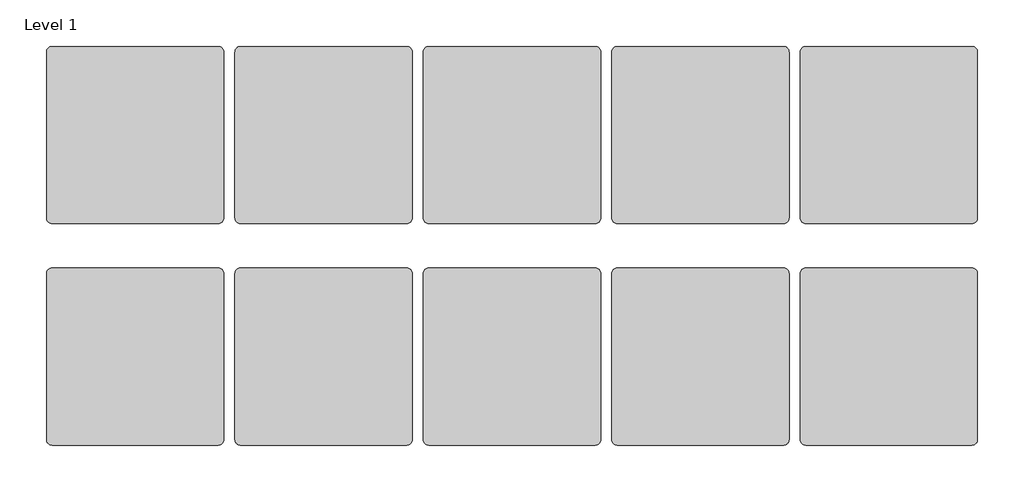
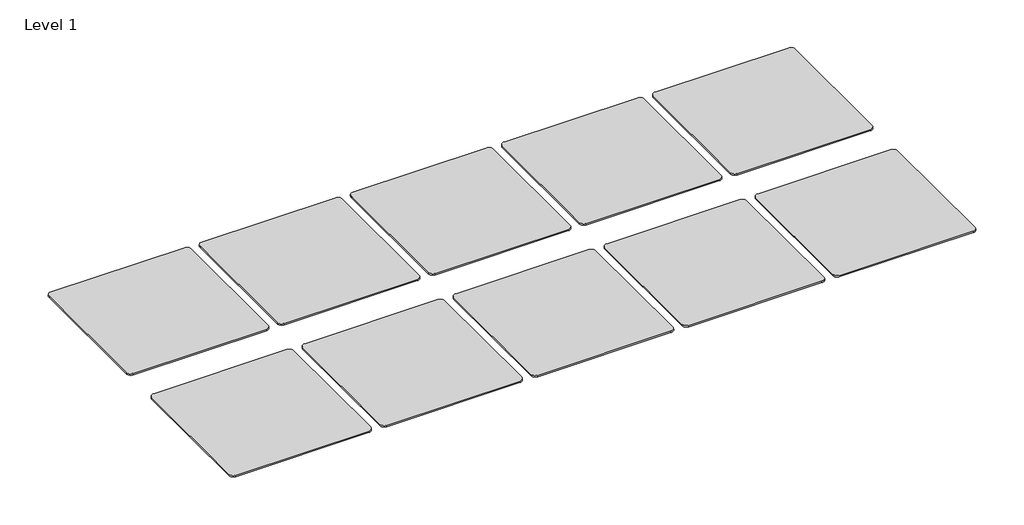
# One storey: 10 proxies.
"""IFC4 building model written with IfcOpenShell, lengths in millimetres."""

from ifc_helpers import new_model, si_unit, origin, place, context, project, spatial, transform, mapped, element, save
from components import materialsample_type_1_aebe469f

model = new_model("IFC4")

# Units and contexts
model_context = context("Model", 3, world=origin())
ifc_project = project(units=[si_unit("LENGTHUNIT", "METRE", prefix="MILLI")], contexts=[model_context])

# Site, building, storey
site = spatial("IfcSite", under=ifc_project)
building = spatial("IfcBuilding", under=site)
storey = spatial("IfcBuildingStorey", under=building, Name="Level 1", Elevation=0.0)

# Proxies
placement = place(None, origin())
materialsample_type_1_shape = materialsample_type_1_aebe469f(model_context)
element("IfcBuildingElementProxy", 1, Name="MaterialSample : Type 1", ObjectType="MaterialSample : Type 1", at=placement, inside=storey, context=model_context, shape_type="MappedRepresentation", body=[
    mapped(materialsample_type_1_shape, transform((2570.4653296, -10703.2158233, 0.0), x_axis=(1.0, 0.0, 0.0), y_axis=(0.0, 1.0, 0.0), z_axis=(0.0, 0.0, 1.0))),
])
element("IfcBuildingElementProxy", 2, Name="MaterialSample : Type 1", ObjectType="MaterialSample : Type 1", at=placement, inside=storey, context=model_context, shape_type="MappedRepresentation", body=[
    mapped(materialsample_type_1_shape, transform((7752.0653296, -7655.2158233, 0.0), x_axis=(1.0, 0.0, 0.0), y_axis=(0.0, 1.0, 0.0), z_axis=(0.0, 0.0, 1.0))),
])
element("IfcBuildingElementProxy", 3, Name="MaterialSample : Type 1", ObjectType="MaterialSample : Type 1", at=placement, inside=storey, context=model_context, shape_type="MappedRepresentation", body=[
    mapped(materialsample_type_1_shape, transform((7752.0653296, -10703.2158233, 0.0), x_axis=(1.0, 0.0, 0.0), y_axis=(0.0, 1.0, 0.0), z_axis=(0.0, 0.0, 1.0))),
])
element("IfcBuildingElementProxy", 4, Name="MaterialSample : Type 1", ObjectType="MaterialSample : Type 1", at=placement, inside=storey, context=model_context, shape_type="MappedRepresentation", body=[
    mapped(materialsample_type_1_shape, transform((10342.8653296, -7655.2158233, 0.0), x_axis=(1.0, 0.0, 0.0), y_axis=(0.0, 1.0, 0.0), z_axis=(0.0, 0.0, 1.0))),
])
element("IfcBuildingElementProxy", 5, Name="MaterialSample : Type 1", ObjectType="MaterialSample : Type 1", at=placement, inside=storey, context=model_context, shape_type="MappedRepresentation", body=[
    mapped(materialsample_type_1_shape, transform((10342.8653296, -10703.2158233, 0.0), x_axis=(1.0, 0.0, 0.0), y_axis=(0.0, 1.0, 0.0), z_axis=(0.0, 0.0, 1.0))),
])
element("IfcBuildingElementProxy", 6, Name="MaterialSample : Type 1", ObjectType="MaterialSample : Type 1", at=placement, inside=storey, context=model_context, shape_type="MappedRepresentation", body=[
    mapped(materialsample_type_1_shape, transform((-20.3346704, -7655.2158233, 0.0), x_axis=(1.0, 0.0, 0.0), y_axis=(0.0, 1.0, 0.0), z_axis=(0.0, 0.0, 1.0))),
])
element("IfcBuildingElementProxy", 7, Name="MaterialSample : Type 1", ObjectType="MaterialSample : Type 1", at=placement, inside=storey, context=model_context, shape_type="MappedRepresentation", body=[
    mapped(materialsample_type_1_shape, transform((-20.3346704, -10703.2158233, 0.0), x_axis=(1.0, 0.0, 0.0), y_axis=(0.0, 1.0, 0.0), z_axis=(0.0, 0.0, 1.0))),
])
element("IfcBuildingElementProxy", 8, Name="MaterialSample : Type 1", ObjectType="MaterialSample : Type 1", at=placement, inside=storey, context=model_context, shape_type="MappedRepresentation", body=[
    mapped(materialsample_type_1_shape, transform((2570.4653296, -7655.2158233, 0.0), x_axis=(1.0, 0.0, 0.0), y_axis=(0.0, 1.0, 0.0), z_axis=(0.0, 0.0, 1.0))),
])
element("IfcBuildingElementProxy", 9, Name="MaterialSample : Type 1", ObjectType="MaterialSample : Type 1", at=placement, inside=storey, context=model_context, shape_type="MappedRepresentation", body=[
    mapped(materialsample_type_1_shape, transform((5161.2653296, -7655.2158233, 0.0), x_axis=(1.0, 0.0, 0.0), y_axis=(0.0, 1.0, 0.0), z_axis=(0.0, 0.0, 1.0))),
])
element("IfcBuildingElementProxy", 10, Name="MaterialSample : Type 1", ObjectType="MaterialSample : Type 1", at=placement, inside=storey, context=model_context, shape_type="MappedRepresentation", body=[
    mapped(materialsample_type_1_shape, transform((5161.2653296, -10703.2158233, 0.0), x_axis=(1.0, 0.0, 0.0), y_axis=(0.0, 1.0, 0.0), z_axis=(0.0, 0.0, 1.0))),
])

save(model, "model.ifc")
